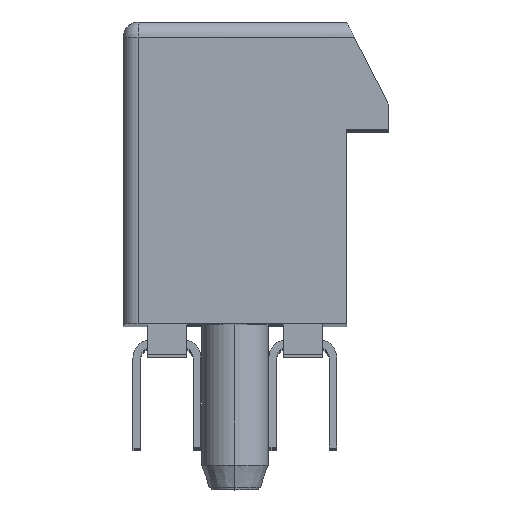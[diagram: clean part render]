
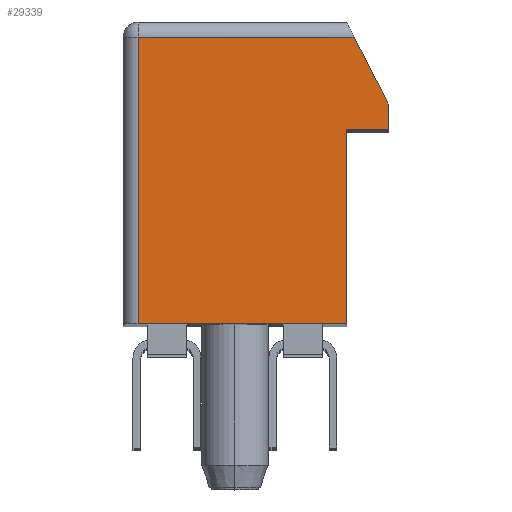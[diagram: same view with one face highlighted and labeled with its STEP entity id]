
A CAD part, top view. The second image highlights one B-rep face of the part: STEP entity #29339.
In plain terms, the highlighted planar face has unit normal (0, 0, 1).
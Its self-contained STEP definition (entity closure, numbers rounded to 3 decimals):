
#1072 = PLANE ( 'NONE',  #33855 ) ;
#2326 = VECTOR ( 'NONE', #11771, 1000. ) ;
#4200 = LINE ( 'NONE', #4653, #37599 ) ;
#4653 = CARTESIAN_POINT ( 'NONE',  ( -3.2, 0., 56. ) ) ;
#5978 = DIRECTION ( 'NONE',  ( -1., 0., 0. ) ) ;
#7392 = CARTESIAN_POINT ( 'NONE',  ( 3.7, 6.45, 56. ) ) ;
#7653 = DIRECTION ( 'NONE',  ( 0., 0., 1. ) ) ;
#7713 = EDGE_LOOP ( 'NONE', ( #35502, #19855, #20912, #38452, #23048, #35020, #18256 ) ) ;
#7816 = VECTOR ( 'NONE', #5978, 1000. ) ;
#9485 = LINE ( 'NONE', #7392, #10501 ) ;
#10501 = VECTOR ( 'NONE', #10721, 1000. ) ;
#10538 = VECTOR ( 'NONE', #32287, 1000. ) ;
#10721 = DIRECTION ( 'NONE',  ( 0., 1., 0. ) ) ;
#10899 = EDGE_CURVE ( 'NONE', #20922, #24281, #24379, .T. ) ;
#11424 = CARTESIAN_POINT ( 'NONE',  ( -3.2, 9.5, 56. ) ) ;
#11609 = LINE ( 'NONE', #32144, #10538 ) ;
#11623 = CARTESIAN_POINT ( 'NONE',  ( -3.7, 0., 56. ) ) ;
#11771 = DIRECTION ( 'NONE',  ( 1., 0., 0. ) ) ;
#14035 = EDGE_CURVE ( 'NONE', #24281, #34056, #40479, .T. ) ;
#14079 = VECTOR ( 'NONE', #20551, 1000. ) ;
#14721 = DIRECTION ( 'NONE',  ( 0., -1., 0. ) ) ;
#16103 = CARTESIAN_POINT ( 'NONE',  ( -3.7, 9.5, 56. ) ) ;
#16801 = LINE ( 'NONE', #16103, #7816 ) ;
#18256 = ORIENTED_EDGE ( 'NONE', *, *, #14035, .T. ) ;
#19569 = VERTEX_POINT ( 'NONE', #25615 ) ;
#19781 = DIRECTION ( 'NONE',  ( 0., 1., 0. ) ) ;
#19836 = VERTEX_POINT ( 'NONE', #20380 ) ;
#19855 = ORIENTED_EDGE ( 'NONE', *, *, #33593, .T. ) ;
#19913 = CARTESIAN_POINT ( 'NONE',  ( 5.1, 7.25, 56. ) ) ;
#20380 = CARTESIAN_POINT ( 'NONE',  ( -3.2, 0., 56. ) ) ;
#20551 = DIRECTION ( 'NONE',  ( -0.454, 0.891, 0. ) ) ;
#20687 = CARTESIAN_POINT ( 'NONE',  ( 3.7, 10., 56. ) ) ;
#20912 = ORIENTED_EDGE ( 'NONE', *, *, #42271, .T. ) ;
#20922 = VERTEX_POINT ( 'NONE', #30585 ) ;
#23048 = ORIENTED_EDGE ( 'NONE', *, *, #41913, .T. ) ;
#24037 = FACE_OUTER_BOUND ( 'NONE', #7713, .T. ) ;
#24281 = VERTEX_POINT ( 'NONE', #30066 ) ;
#24379 = LINE ( 'NONE', #19913, #40607 ) ;
#25615 = CARTESIAN_POINT ( 'NONE',  ( 3.7, 6.45, 56. ) ) ;
#26146 = EDGE_CURVE ( 'NONE', #27784, #19569, #9485, .T. ) ;
#27219 = CARTESIAN_POINT ( 'NONE',  ( 3.955, 9.5, 56. ) ) ;
#27784 = VERTEX_POINT ( 'NONE', #36363 ) ;
#27992 = CARTESIAN_POINT ( 'NONE',  ( 0., 0., 56. ) ) ;
#29339 = ADVANCED_FACE ( 'NONE', ( #24037 ), #1072, .T. ) ;
#29449 = VERTEX_POINT ( 'NONE', #11424 ) ;
#30066 = CARTESIAN_POINT ( 'NONE',  ( 5.1, 7.25, 56. ) ) ;
#30172 = LINE ( 'NONE', #11623, #2326 ) ;
#30585 = CARTESIAN_POINT ( 'NONE',  ( 5.1, 6.45, 56. ) ) ;
#31267 = DIRECTION ( 'NONE',  ( 1., 0., 0. ) ) ;
#32144 = CARTESIAN_POINT ( 'NONE',  ( 5.1, 6.45, 56. ) ) ;
#32287 = DIRECTION ( 'NONE',  ( 1., 0., 0. ) ) ;
#33154 = EDGE_CURVE ( 'NONE', #34056, #29449, #16801, .T. ) ;
#33593 = EDGE_CURVE ( 'NONE', #29449, #19836, #4200, .T. ) ;
#33855 = AXIS2_PLACEMENT_3D ( 'NONE', #27992, #7653, #31267 ) ;
#34056 = VERTEX_POINT ( 'NONE', #27219 ) ;
#35020 = ORIENTED_EDGE ( 'NONE', *, *, #10899, .T. ) ;
#35502 = ORIENTED_EDGE ( 'NONE', *, *, #33154, .T. ) ;
#36363 = CARTESIAN_POINT ( 'NONE',  ( 3.7, 0., 56. ) ) ;
#37599 = VECTOR ( 'NONE', #14721, 1000. ) ;
#38452 = ORIENTED_EDGE ( 'NONE', *, *, #26146, .T. ) ;
#40479 = LINE ( 'NONE', #20687, #14079 ) ;
#40607 = VECTOR ( 'NONE', #19781, 1000. ) ;
#41913 = EDGE_CURVE ( 'NONE', #19569, #20922, #11609, .T. ) ;
#42271 = EDGE_CURVE ( 'NONE', #19836, #27784, #30172, .T. ) ;
